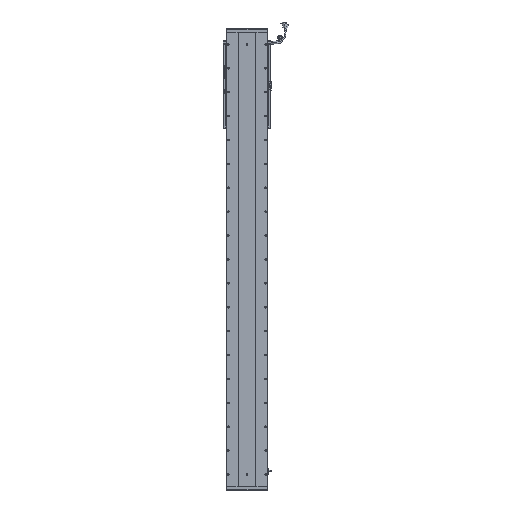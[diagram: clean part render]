
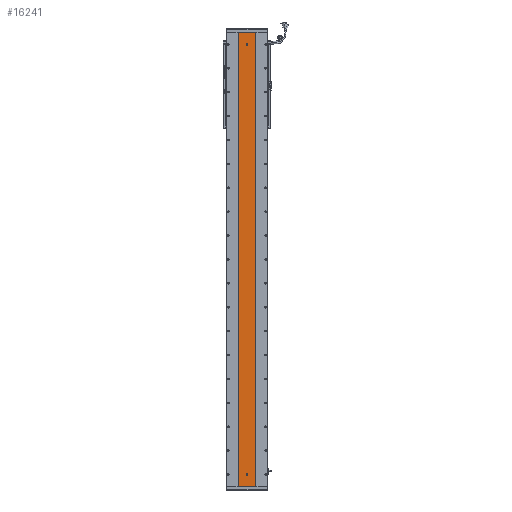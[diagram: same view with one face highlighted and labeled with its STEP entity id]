
A CAD part, front view. The second image highlights one B-rep face of the part: STEP entity #16241.
In plain terms, the highlighted planar face has unit normal (0, -1, 0).
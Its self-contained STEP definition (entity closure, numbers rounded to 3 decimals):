
#648 = EDGE_CURVE ( 'NONE', #110045, #34290, #27466, .T. ) ;
#1398 = CIRCLE ( 'NONE', #45863, 3. ) ;
#2648 = VECTOR ( 'NONE', #101041, 1000. ) ;
#3823 = ORIENTED_EDGE ( 'NONE', *, *, #98294, .F. ) ;
#5272 = ORIENTED_EDGE ( 'NONE', *, *, #111317, .T. ) ;
#6007 = VERTEX_POINT ( 'NONE', #57985 ) ;
#8024 = CARTESIAN_POINT ( 'NONE',  ( 3283.529, 1415.701, 49.5 ) ) ;
#8214 = VECTOR ( 'NONE', #65832, 1000. ) ;
#9887 = LINE ( 'NONE', #85848, #34694 ) ;
#10623 = DIRECTION ( 'NONE',  ( 0., 0., -1. ) ) ;
#10792 = CARTESIAN_POINT ( 'NONE',  ( 3277.529, 1415.701, 52.5 ) ) ;
#11061 = CARTESIAN_POINT ( 'NONE',  ( 3316.311, 1415.701, 0. ) ) ;
#11393 = CARTESIAN_POINT ( 'NONE',  ( 3280.529, 1415.701, 49.5 ) ) ;
#11835 = CIRCLE ( 'NONE', #29793, 3. ) ;
#12741 = EDGE_CURVE ( 'NONE', #34290, #79933, #1398, .T. ) ;
#13863 = ORIENTED_EDGE ( 'NONE', *, *, #32671, .F. ) ;
#14132 = CARTESIAN_POINT ( 'NONE',  ( 3280.529, 1415.701, 52.5 ) ) ;
#15288 = CARTESIAN_POINT ( 'NONE',  ( 3316.311, 1415.701, 1902. ) ) ;
#16241 = ADVANCED_FACE ( 'NONE', ( #56035, #20134, #93485 ), #103489, .F. ) ;
#17127 = CARTESIAN_POINT ( 'NONE',  ( 3277.529, 1415.701, 49.5 ) ) ;
#18122 = CARTESIAN_POINT ( 'NONE',  ( 3244.748, 1415.701, 1902. ) ) ;
#18730 = EDGE_CURVE ( 'NONE', #79933, #110767, #55590, .T. ) ;
#20134 = FACE_BOUND ( 'NONE', #21904, .T. ) ;
#21904 = EDGE_LOOP ( 'NONE', ( #71158, #13863 ) ) ;
#22664 = EDGE_CURVE ( 'NONE', #6007, #65425, #46649, .T. ) ;
#22732 = DIRECTION ( 'NONE',  ( 0., 0., 1. ) ) ;
#25924 = VECTOR ( 'NONE', #95666, 1000. ) ;
#25948 = CIRCLE ( 'NONE', #68803, 3. ) ;
#26883 = DIRECTION ( 'NONE',  ( 0., -1., 0. ) ) ;
#27466 = LINE ( 'NONE', #82235, #2648 ) ;
#28017 = AXIS2_PLACEMENT_3D ( 'NONE', #105339, #61239, #62377 ) ;
#29500 = ORIENTED_EDGE ( 'NONE', *, *, #648, .F. ) ;
#29793 = AXIS2_PLACEMENT_3D ( 'NONE', #72475, #26883, #98427 ) ;
#30006 = ORIENTED_EDGE ( 'NONE', *, *, #18730, .F. ) ;
#31213 = ORIENTED_EDGE ( 'NONE', *, *, #79759, .T. ) ;
#31430 = LINE ( 'NONE', #105618, #25924 ) ;
#31820 = CIRCLE ( 'NONE', #57048, 3. ) ;
#32072 = EDGE_LOOP ( 'NONE', ( #31213, #3823, #112891, #5272 ) ) ;
#32671 = EDGE_CURVE ( 'NONE', #65425, #6007, #25948, .T. ) ;
#33416 = LINE ( 'NONE', #79719, #101202 ) ;
#34119 = CARTESIAN_POINT ( 'NONE',  ( 3283.529, 1415.701, 52.5 ) ) ;
#34290 = VERTEX_POINT ( 'NONE', #34119 ) ;
#34694 = VECTOR ( 'NONE', #112101, 1000. ) ;
#36144 = ORIENTED_EDGE ( 'NONE', *, *, #67259, .F. ) ;
#38745 = VERTEX_POINT ( 'NONE', #98344 ) ;
#45863 = AXIS2_PLACEMENT_3D ( 'NONE', #14132, #75925, #68188 ) ;
#46649 = CIRCLE ( 'NONE', #28017, 3. ) ;
#50280 = ORIENTED_EDGE ( 'NONE', *, *, #12741, .F. ) ;
#50551 = CARTESIAN_POINT ( 'NONE',  ( 3244.748, 1415.701, 1902. ) ) ;
#55054 = EDGE_CURVE ( 'NONE', #99927, #110045, #31820, .T. ) ;
#55590 = LINE ( 'NONE', #10792, #98482 ) ;
#56035 = FACE_BOUND ( 'NONE', #66716, .T. ) ;
#57048 = AXIS2_PLACEMENT_3D ( 'NONE', #11393, #90579, #10623 ) ;
#57985 = CARTESIAN_POINT ( 'NONE',  ( 3280.529, 1415.701, 1848. ) ) ;
#58663 = AXIS2_PLACEMENT_3D ( 'NONE', #50551, #112398, #22732 ) ;
#61114 = VERTEX_POINT ( 'NONE', #15288 ) ;
#61239 = DIRECTION ( 'NONE',  ( 0., -1., 0. ) ) ;
#62377 = DIRECTION ( 'NONE',  ( 0., 0., -1. ) ) ;
#65425 = VERTEX_POINT ( 'NONE', #78653 ) ;
#65832 = DIRECTION ( 'NONE',  ( 1., 0., 0. ) ) ;
#66716 = EDGE_LOOP ( 'NONE', ( #36144, #30006, #50280, #29500, #109224 ) ) ;
#67259 = EDGE_CURVE ( 'NONE', #110767, #99927, #11835, .T. ) ;
#68188 = DIRECTION ( 'NONE',  ( 0., 0., -1. ) ) ;
#68803 = AXIS2_PLACEMENT_3D ( 'NONE', #87586, #96859, #95364 ) ;
#70412 = DIRECTION ( 'NONE',  ( 1., 0., 0. ) ) ;
#71158 = ORIENTED_EDGE ( 'NONE', *, *, #22664, .F. ) ;
#72475 = CARTESIAN_POINT ( 'NONE',  ( 3280.529, 1415.701, 49.5 ) ) ;
#72570 = DIRECTION ( 'NONE',  ( 0., 0., -1. ) ) ;
#73475 = CARTESIAN_POINT ( 'NONE',  ( 3280.529, 1415.701, 46.5 ) ) ;
#75925 = DIRECTION ( 'NONE',  ( 0., -1., 0. ) ) ;
#76920 = CARTESIAN_POINT ( 'NONE',  ( 3277.529, 1415.701, 52.5 ) ) ;
#78597 = VERTEX_POINT ( 'NONE', #11061 ) ;
#78653 = CARTESIAN_POINT ( 'NONE',  ( 3280.529, 1415.701, 1854. ) ) ;
#79719 = CARTESIAN_POINT ( 'NONE',  ( 3244.748, 1415.701, 1902. ) ) ;
#79759 = EDGE_CURVE ( 'NONE', #38745, #78597, #80033, .T. ) ;
#79933 = VERTEX_POINT ( 'NONE', #76920 ) ;
#80033 = LINE ( 'NONE', #109556, #8214 ) ;
#80045 = VERTEX_POINT ( 'NONE', #18122 ) ;
#82235 = CARTESIAN_POINT ( 'NONE',  ( 3283.529, 1415.701, 52.5 ) ) ;
#85848 = CARTESIAN_POINT ( 'NONE',  ( 3244.748, 1415.701, 1902. ) ) ;
#87586 = CARTESIAN_POINT ( 'NONE',  ( 3280.529, 1415.701, 1851. ) ) ;
#90579 = DIRECTION ( 'NONE',  ( 0., -1., 0. ) ) ;
#93485 = FACE_OUTER_BOUND ( 'NONE', #32072, .T. ) ;
#95218 = EDGE_CURVE ( 'NONE', #80045, #61114, #33416, .T. ) ;
#95364 = DIRECTION ( 'NONE',  ( 0., 0., -1. ) ) ;
#95666 = DIRECTION ( 'NONE',  ( 0., 0., -1. ) ) ;
#96859 = DIRECTION ( 'NONE',  ( 0., -1., 0. ) ) ;
#98294 = EDGE_CURVE ( 'NONE', #61114, #78597, #31430, .T. ) ;
#98344 = CARTESIAN_POINT ( 'NONE',  ( 3244.748, 1415.701, 0. ) ) ;
#98427 = DIRECTION ( 'NONE',  ( 0., 0., -1. ) ) ;
#98482 = VECTOR ( 'NONE', #72570, 1000. ) ;
#99927 = VERTEX_POINT ( 'NONE', #73475 ) ;
#101041 = DIRECTION ( 'NONE',  ( 0., 0., 1. ) ) ;
#101202 = VECTOR ( 'NONE', #70412, 1000. ) ;
#103489 = PLANE ( 'NONE',  #58663 ) ;
#105339 = CARTESIAN_POINT ( 'NONE',  ( 3280.529, 1415.701, 1851. ) ) ;
#105618 = CARTESIAN_POINT ( 'NONE',  ( 3316.311, 1415.701, 1902. ) ) ;
#109224 = ORIENTED_EDGE ( 'NONE', *, *, #55054, .F. ) ;
#109556 = CARTESIAN_POINT ( 'NONE',  ( 3244.748, 1415.701, 0. ) ) ;
#110045 = VERTEX_POINT ( 'NONE', #8024 ) ;
#110767 = VERTEX_POINT ( 'NONE', #17127 ) ;
#111317 = EDGE_CURVE ( 'NONE', #80045, #38745, #9887, .T. ) ;
#112101 = DIRECTION ( 'NONE',  ( 0., 0., -1. ) ) ;
#112398 = DIRECTION ( 'NONE',  ( 0., 1., 0. ) ) ;
#112891 = ORIENTED_EDGE ( 'NONE', *, *, #95218, .F. ) ;
